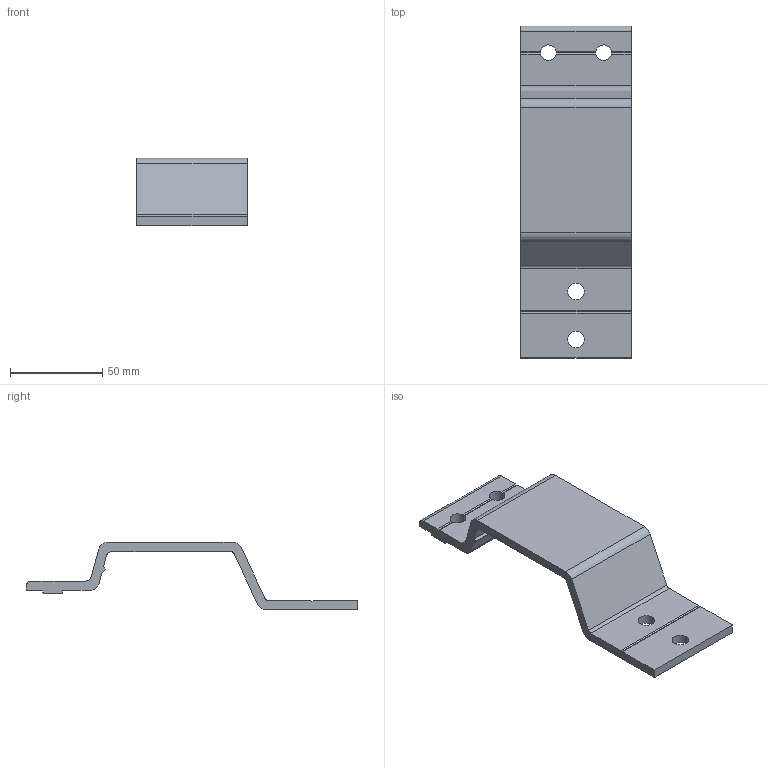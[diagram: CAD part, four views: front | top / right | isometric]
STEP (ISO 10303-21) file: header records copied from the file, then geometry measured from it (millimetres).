
FILE_DESCRIPTION (( 'STEP AP214' ), '1' );
FILE_NAME ('FAVBS 60M.step', '2017-04-05T08:00:11', ( '' ), ( '' ), 'SwSTEP 2.0', 'SolidWorks 2015', '' );
FILE_SCHEMA (( 'AUTOMOTIVE_DESIGN' ));
Length unit declared in the file: millimetre
Products named in the file (1): FAVBS 60M
Bounding box: 60 x 180 x 36.5 mm (x, y, z)
Volume: 64077.7 mm3; surface area: 28715.4 mm2
Topology: 1 solids, 1 shells, 50 faces, 146 edges, 96 vertices
Faces by surface type: plane 31, cylinder 19
Entity records: 1706 total; most frequent: CARTESIAN_POINT 317, ORIENTED_EDGE 292, DIRECTION 278, EDGE_CURVE 146, LINE 100, VECTOR 100, VERTEX_POINT 96, AXIS2_PLACEMENT_3D 89
